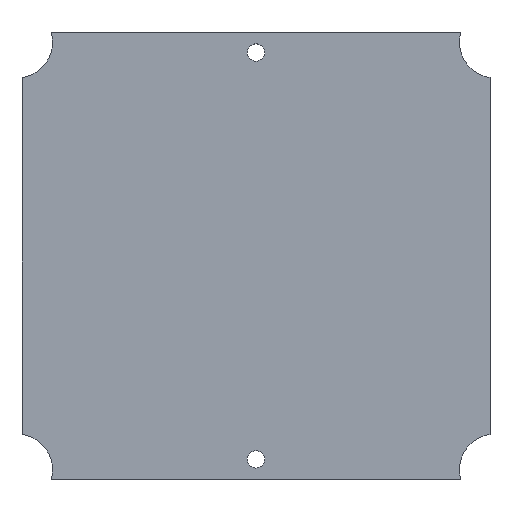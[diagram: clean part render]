
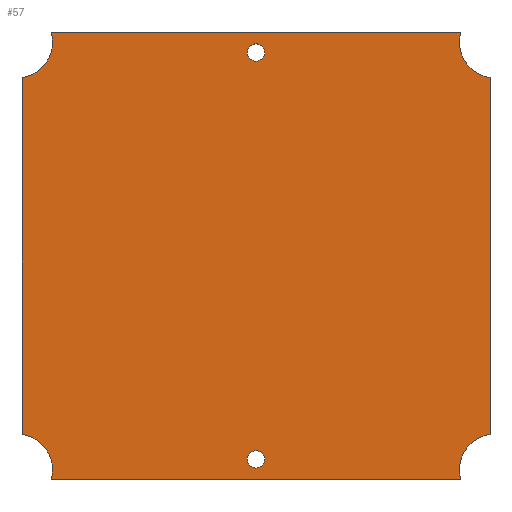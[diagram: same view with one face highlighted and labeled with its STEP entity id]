
A CAD part, top view. The second image highlights one B-rep face of the part: STEP entity #57.
In plain terms, the highlighted planar face has unit normal (0, 0, 1).
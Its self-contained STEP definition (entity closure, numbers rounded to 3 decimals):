
#21 = EDGE_CURVE('',#22,#24,#26,.T.);
#22 = VERTEX_POINT('',#23);
#23 = CARTESIAN_POINT('',(0.,8.928,3.));
#24 = VERTEX_POINT('',#25);
#25 = CARTESIAN_POINT('',(0.,79.072,3.));
#26 = LINE('',#27,#28);
#27 = CARTESIAN_POINT('',(0.,0.,3.));
#28 = VECTOR('',#29,1.);
#29 = DIRECTION('',(-0.,1.,0.));
#57 = ADVANCED_FACE('',(#58,#137,#148),#159,.T.);
#58 = FACE_BOUND('',#59,.T.);
#59 = EDGE_LOOP('',(#60,#61,#70,#79,#87,#96,#104,#113,#121,#130));
#60 = ORIENTED_EDGE('',*,*,#21,.F.);
#61 = ORIENTED_EDGE('',*,*,#62,.F.);
#62 = EDGE_CURVE('',#63,#22,#65,.T.);
#63 = VERTEX_POINT('',#64);
#64 = CARTESIAN_POINT('',(6.,2.,3.));
#65 = CIRCLE('',#66,7.);
#66 = AXIS2_PLACEMENT_3D('',#67,#68,#69);
#67 = CARTESIAN_POINT('',(-1.,2.,3.));
#68 = DIRECTION('',(0.,0.,1.));
#69 = DIRECTION('',(1.,0.,-0.));
#70 = ORIENTED_EDGE('',*,*,#71,.F.);
#71 = EDGE_CURVE('',#72,#63,#74,.T.);
#72 = VERTEX_POINT('',#73);
#73 = CARTESIAN_POINT('',(5.708,0.,3.));
#74 = CIRCLE('',#75,7.);
#75 = AXIS2_PLACEMENT_3D('',#76,#77,#78);
#76 = CARTESIAN_POINT('',(-1.,2.,3.));
#77 = DIRECTION('',(0.,0.,1.));
#78 = DIRECTION('',(1.,0.,-0.));
#79 = ORIENTED_EDGE('',*,*,#80,.T.);
#80 = EDGE_CURVE('',#72,#81,#83,.T.);
#81 = VERTEX_POINT('',#82);
#82 = CARTESIAN_POINT('',(86.292,0.,3.));
#83 = LINE('',#84,#85);
#84 = CARTESIAN_POINT('',(0.,0.,3.));
#85 = VECTOR('',#86,1.);
#86 = DIRECTION('',(1.,0.,-0.));
#87 = ORIENTED_EDGE('',*,*,#88,.F.);
#88 = EDGE_CURVE('',#89,#81,#91,.T.);
#89 = VERTEX_POINT('',#90);
#90 = CARTESIAN_POINT('',(92.,8.928,3.));
#91 = CIRCLE('',#92,7.);
#92 = AXIS2_PLACEMENT_3D('',#93,#94,#95);
#93 = CARTESIAN_POINT('',(93.,2.,3.));
#94 = DIRECTION('',(0.,0.,1.));
#95 = DIRECTION('',(1.,0.,-0.));
#96 = ORIENTED_EDGE('',*,*,#97,.T.);
#97 = EDGE_CURVE('',#89,#98,#100,.T.);
#98 = VERTEX_POINT('',#99);
#99 = CARTESIAN_POINT('',(92.,79.072,3.));
#100 = LINE('',#101,#102);
#101 = CARTESIAN_POINT('',(92.,0.,3.));
#102 = VECTOR('',#103,1.);
#103 = DIRECTION('',(-0.,1.,0.));
#104 = ORIENTED_EDGE('',*,*,#105,.F.);
#105 = EDGE_CURVE('',#106,#98,#108,.T.);
#106 = VERTEX_POINT('',#107);
#107 = CARTESIAN_POINT('',(86.292,88.,3.));
#108 = CIRCLE('',#109,7.);
#109 = AXIS2_PLACEMENT_3D('',#110,#111,#112);
#110 = CARTESIAN_POINT('',(93.,86.,3.));
#111 = DIRECTION('',(0.,0.,1.));
#112 = DIRECTION('',(1.,0.,-0.));
#113 = ORIENTED_EDGE('',*,*,#114,.F.);
#114 = EDGE_CURVE('',#115,#106,#117,.T.);
#115 = VERTEX_POINT('',#116);
#116 = CARTESIAN_POINT('',(5.708,88.,3.));
#117 = LINE('',#118,#119);
#118 = CARTESIAN_POINT('',(0.,88.,3.));
#119 = VECTOR('',#120,1.);
#120 = DIRECTION('',(1.,0.,-0.));
#121 = ORIENTED_EDGE('',*,*,#122,.F.);
#122 = EDGE_CURVE('',#123,#115,#125,.T.);
#123 = VERTEX_POINT('',#124);
#124 = CARTESIAN_POINT('',(6.,86.,3.));
#125 = CIRCLE('',#126,7.);
#126 = AXIS2_PLACEMENT_3D('',#127,#128,#129);
#127 = CARTESIAN_POINT('',(-1.,86.,3.));
#128 = DIRECTION('',(0.,0.,1.));
#129 = DIRECTION('',(1.,0.,-0.));
#130 = ORIENTED_EDGE('',*,*,#131,.F.);
#131 = EDGE_CURVE('',#24,#123,#132,.T.);
#132 = CIRCLE('',#133,7.);
#133 = AXIS2_PLACEMENT_3D('',#134,#135,#136);
#134 = CARTESIAN_POINT('',(-1.,86.,3.));
#135 = DIRECTION('',(0.,0.,1.));
#136 = DIRECTION('',(1.,0.,-0.));
#137 = FACE_BOUND('',#138,.T.);
#138 = EDGE_LOOP('',(#139));
#139 = ORIENTED_EDGE('',*,*,#140,.F.);
#140 = EDGE_CURVE('',#141,#141,#143,.T.);
#141 = VERTEX_POINT('',#142);
#142 = CARTESIAN_POINT('',(47.7,4.,3.));
#143 = CIRCLE('',#144,1.7);
#144 = AXIS2_PLACEMENT_3D('',#145,#146,#147);
#145 = CARTESIAN_POINT('',(46.,4.,3.));
#146 = DIRECTION('',(0.,0.,1.));
#147 = DIRECTION('',(1.,0.,-0.));
#148 = FACE_BOUND('',#149,.T.);
#149 = EDGE_LOOP('',(#150));
#150 = ORIENTED_EDGE('',*,*,#151,.F.);
#151 = EDGE_CURVE('',#152,#152,#154,.T.);
#152 = VERTEX_POINT('',#153);
#153 = CARTESIAN_POINT('',(47.7,84.,3.));
#154 = CIRCLE('',#155,1.7);
#155 = AXIS2_PLACEMENT_3D('',#156,#157,#158);
#156 = CARTESIAN_POINT('',(46.,84.,3.));
#157 = DIRECTION('',(0.,0.,1.));
#158 = DIRECTION('',(1.,0.,-0.));
#159 = PLANE('',#160);
#160 = AXIS2_PLACEMENT_3D('',#161,#162,#163);
#161 = CARTESIAN_POINT('',(0.,0.,3.));
#162 = DIRECTION('',(0.,0.,1.));
#163 = DIRECTION('',(1.,0.,-0.));
